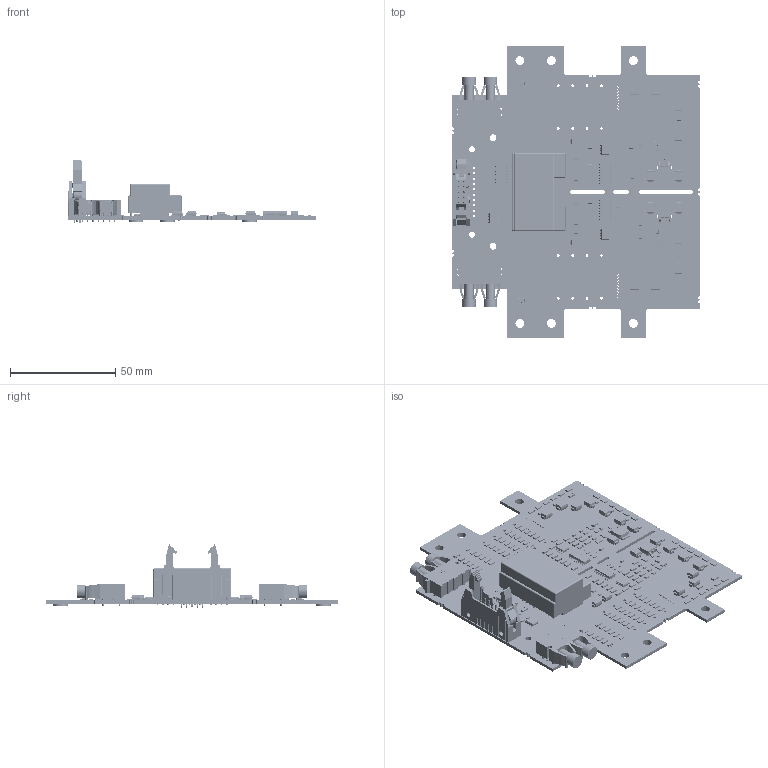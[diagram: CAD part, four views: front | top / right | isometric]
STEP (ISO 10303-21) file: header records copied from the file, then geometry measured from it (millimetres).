
FILE_DESCRIPTION(/* description */ ('Alibre Inc.'),/* implementation_level */ '2;1');
FILE_NAME(/* name */ 'export0',/* time_stamp */ '2014-03-17T09:26:33+01:00',/* author */ (''),/* organization */ (''),/* preprocessor_version */ 'ST-DEVELOPER v14',/* originating_system */ 'Alibre',/* authorisation */ '');
FILE_SCHEMA (('AUTOMOTIVE_DESIGN'));
Length unit declared in the file: millimetre
Bounding box: 117.98 x 138.95 x 29.99 mm (x, y, z)
Volume: 40980.8 mm3; surface area: 50188.8 mm2
Topology: 950 solids, 950 shells, 13176 faces, 31946 edges, 20303 vertices
Faces by surface type: plane 10626, cylinder 2012, bspline 466, torus 43, sphere 17, cone 8, revolution 4
Full cylindrical faces by diameter (mm): 0.406 x68, 0.5 x3, 0.509 x16, 0.64 x8, 0.8 x32, 1 x59, 1.1 x30, 1.3 x32, 2.8 x4, 3.2 x2, 4.2 x12, 4.4 x4, 6.5 x4, 7 x6
Entity records: 81162 total; most frequent: CARTESIAN_POINT 15133, ORIENTED_EDGE 12168, DIRECTION 12098, EDGE_CURVE 6084, VECTOR 4850, LINE 4850, AXIS2_PLACEMENT_3D 4452, VERTEX_POINT 3957
